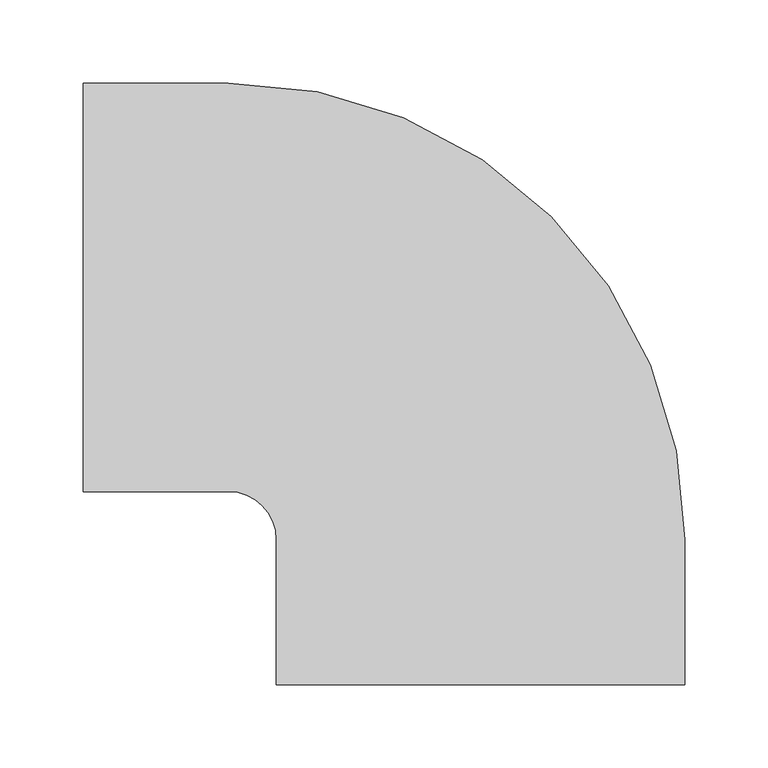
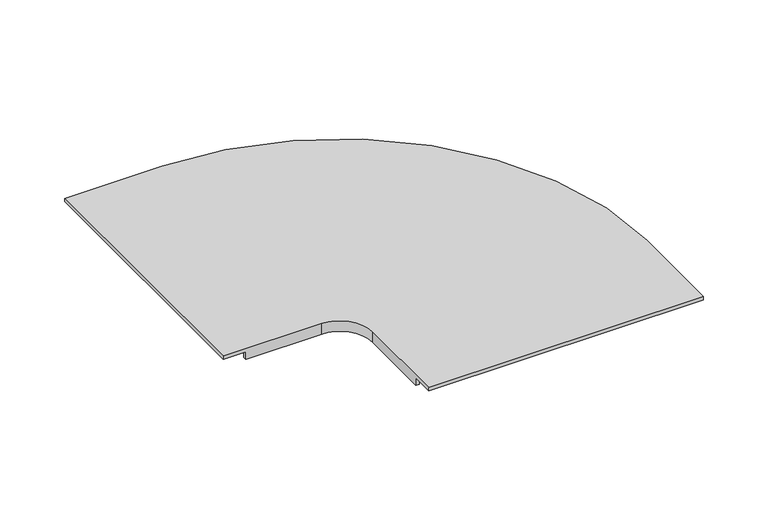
"""IFC4 building model written with IfcOpenShell, lengths in millimetres: cable carrier fitting geometry, CCT_Hyperline_FBTR-ELB90-CVR_Крышка на горизонтальный изгиб на 90°пластиковый : Крышка на горизонтальный изгиб на 90° пластиковый."""

import ifcopenshell
import ifcopenshell.guid

model = None  # the IFC model being written
_history = None  # IfcOwnerHistory: only IFC2X3 demands one
_inside = {}  # id of a spatial element -> (the spatial element, [elements in it])
_under = {}  # id of a project, library or spatial element -> (it, [spatial elements below it])
_declared = {}  # id of a project -> (the project, [libraries it declares])
_typed = {}  # id of a type object -> (the type object, [elements of that type])
_made_of = {}  # id of a material, layer set ... -> (it, [elements and type objects made of it])


def new_model(schema):
    """Start an empty IFC model of exactly this schema.

    Asked for "IFC4X3", IfcOpenShell would pick the latest addendum, in which some entities
    have other attributes; the version numbers below select the first issue.
    IFC2X3 requires an IfcOwnerHistory on every rooted entity: one is made here for all.
    """
    global model, _history
    if schema == "IFC4X3":
        model = ifcopenshell.file(schema_version=(4, 3, 0, 0))
    else:
        model = ifcopenshell.file(schema=schema)
    _inside.clear()
    _under.clear()
    _declared.clear()
    _typed.clear()
    _made_of.clear()
    _history = None
    if model.schema == "IFC2X3":
        org = make("IfcOrganization", Name="unknown")
        user = make(
            "IfcPersonAndOrganization",
            ThePerson=make("IfcPerson", FamilyName="unknown"),
            TheOrganization=org,
        )
        app = make(
            "IfcApplication",
            ApplicationDeveloper=org,
            Version="unknown",
            ApplicationFullName="unknown",
            ApplicationIdentifier="unknown",
        )
        _history = make(
            "IfcOwnerHistory",
            OwningUser=user,
            OwningApplication=app,
            ChangeAction="ADDED",
            CreationDate=0,
        )
    return model


def make(cls, **values):
    """One entity of the class cls with the attributes given. An attribute that is None is left unset."""
    return model.create_entity(
        cls, **{name: value for name, value in values.items() if value is not None}
    )


def rooted(cls, **values):
    """An entity with a GlobalId (a new one), such as an element, a storey or a relation."""
    return make(cls, GlobalId=ifcopenshell.guid.new(), OwnerHistory=_history, **values)


def si_unit(unit_type, name, prefix=None):
    """IfcSIUnit, for example si_unit("LENGTHUNIT", "METRE", prefix="MILLI")."""
    return make("IfcSIUnit", UnitType=unit_type, Prefix=prefix, Name=name)


def assignment(units):
    """IfcUnitAssignment: the units of a project."""
    return None if units is None else make("IfcUnitAssignment", Units=units)


def point(xyz):
    """IfcCartesianPoint."""
    return None if xyz is None else make("IfcCartesianPoint", Coordinates=xyz)


def direction(xyz):
    """IfcDirection."""
    return None if xyz is None else make("IfcDirection", DirectionRatios=xyz)


def frame(location, z_axis=None, x_axis=None):
    """IfcAxis2Placement3D, a coordinate frame: its origin and axes. An axis left out is left unset."""
    return make(
        "IfcAxis2Placement3D",
        Location=point(location),
        Axis=direction(z_axis),
        RefDirection=direction(x_axis),
    )


def origin():
    """The frame at (0, 0, 0) with its axes left unset."""
    return frame((0.0, 0.0, 0.0))


def place(relative_to, where):
    """IfcLocalPlacement: puts the frame where relative to a parent placement (None: the world)."""
    return make(
        "IfcLocalPlacement", PlacementRelTo=relative_to, RelativePlacement=where
    )


def context(
    kind, dimensions, precision=None, world=None, true_north=None, identifier=None
):
    """IfcGeometricRepresentationContext, for example the 3D "Model" context."""
    return make(
        "IfcGeometricRepresentationContext",
        ContextIdentifier=identifier,
        ContextType=kind,
        CoordinateSpaceDimension=dimensions,
        Precision=precision,
        WorldCoordinateSystem=world,
        TrueNorth=true_north,
    )


def project(units=None, contexts=None):
    """IfcProject with its units and contexts."""
    return rooted(
        "IfcProject",
        Name="project",
        RepresentationContexts=contexts,
        UnitsInContext=assignment(units),
    )


def spatial(cls, under=None, at=None, **own):
    """A site, building, storey or space (cls), placed at a placement, below another one or the project."""
    s = rooted(cls, ObjectPlacement=at, **own)
    if under is not None:
        _under.setdefault(under.id(), (under, []))[1].append(s)
    return s


def polyline(points):
    """IfcPolyline through the points."""
    return make("IfcPolyline", Points=[point(p) for p in points])


def circle_curve(where, radius):
    """IfcCircle in the frame where."""
    return make("IfcCircle", Position=where, Radius=radius)


def shape(context_of_items, identifier, shape_type, items):
    """IfcShapeRepresentation: the items that make up one representation, for example the "Body"."""
    return make(
        "IfcShapeRepresentation",
        ContextOfItems=context_of_items,
        RepresentationIdentifier=identifier,
        RepresentationType=shape_type,
        Items=items,
    )


def source(mapping_origin, context_of_items, identifier, shape_type, items):
    """IfcRepresentationMap: a shape defined once, which mapped items show again and again."""
    return make(
        "IfcRepresentationMap",
        MappingOrigin=mapping_origin,
        MappedRepresentation=shape(context_of_items, identifier, shape_type, items),
    )


def transform(
    local_origin,
    x_axis=None,
    y_axis=None,
    z_axis=None,
    scale=None,
    scale2=None,
    scale3=None,
    uniform=True,
):
    """IfcCartesianTransformationOperator3D, or its non-uniform kind. x_axis, y_axis, z_axis: its Axis1, 2, 3."""
    if uniform:
        return make(
            "IfcCartesianTransformationOperator3D",
            Axis1=direction(x_axis),
            Axis2=direction(y_axis),
            LocalOrigin=point(local_origin),
            Scale=scale,
            Axis3=direction(z_axis),
        )
    return make(
        "IfcCartesianTransformationOperator3DnonUniform",
        Axis1=direction(x_axis),
        Axis2=direction(y_axis),
        LocalOrigin=point(local_origin),
        Scale=scale,
        Axis3=direction(z_axis),
        Scale2=scale2,
        Scale3=scale3,
    )


def mapped(mapping_source, mapping_target):
    """IfcMappedItem: shows the shape of a source again, moved by a transform."""
    return make(
        "IfcMappedItem", MappingSource=mapping_source, MappingTarget=mapping_target
    )


def made_of(thing, what):
    """Note that an element or type object is made of a material, layer set ...; save() writes the relation."""
    if what is not None:
        _made_of.setdefault(what.id(), (what, []))[1].append(thing)
    return thing


def element(
    cls,
    number,
    at=None,
    inside=None,
    cuts=None,
    type_object=None,
    material=None,
    context=None,
    identifier="Body",
    shape_type=None,
    held_by="IfcProductDefinitionShape",
    body=None,
    shapes=None,
    **own,
):
    """One element of the class cls, such as IfcWall. Its Tag is "e" and its number.

    at: its placement. inside: the storey or other place that contains it. cuts: it is an
    opening in that element (IfcRelVoidsElement). A single representation is given by context,
    identifier, shape_type and body (its items); several are given by shapes. held_by: the class
    of the entity that holds the representations. save() writes the other relations.
    """
    e = rooted(cls, Tag="e%d" % number, ObjectPlacement=at, **own)
    if body is not None:
        shapes = [shape(context, identifier, shape_type, body)]
    if shapes is not None:
        e.Representation = make(held_by, Representations=shapes)
    if inside is not None:
        _inside.setdefault(inside.id(), (inside, []))[1].append(e)
    if cuts is not None:
        rooted(
            "IfcRelVoidsElement", RelatingBuildingElement=cuts, RelatedOpeningElement=e
        )
    if type_object is not None:
        _typed.setdefault(type_object.id(), (type_object, []))[1].append(e)
    return made_of(e, material)


def aggregate(whole, parts):
    """IfcRelAggregates: a whole, such as a stair, and the parts it consists of."""
    return rooted("IfcRelAggregates", RelatingObject=whole, RelatedObjects=parts)


def save(model, path):
    """Write the relations noted so far, then the file.

    IfcRelAggregates (storeys below a building ...), IfcRelContainedInSpatialStructure (elements
    in a storey), IfcRelDefinesByType, IfcRelAssociatesMaterial and IfcRelDeclares: one each for
    every whole, place, type object, material and project.
    """
    for whole, parts in _under.values():
        aggregate(whole, parts)
    for where, things in _inside.values():
        rooted(
            "IfcRelContainedInSpatialStructure",
            RelatedElements=things,
            RelatingStructure=where,
        )
    for kind, things in _typed.values():
        rooted("IfcRelDefinesByType", RelatedObjects=things, RelatingType=kind)
    for what, things in _made_of.values():
        rooted("IfcRelAssociatesMaterial", RelatedObjects=things, RelatingMaterial=what)
    for by, libraries in _declared.values():
        rooted("IfcRelDeclares", RelatingContext=by, RelatedDefinitions=libraries)
    model.write(path)


def plane_surface(at):
    """IfcPlane: the flat surface through the origin of the frame at, square to its z axis."""
    return make("IfcPlane", Position=at)


def cylinder_surface(at, radius):
    """IfcCylindricalSurface: all points at the distance radius from the z axis of the frame at."""
    return make("IfcCylindricalSurface", Position=at, Radius=radius)


def revolved_surface(curve, axis_point, axis_direction):
    """IfcSurfaceOfRevolution: the curve turned about the line through axis_point along axis_direction."""
    return make(
        "IfcSurfaceOfRevolution",
        SweptCurve=make("IfcArbitraryOpenProfileDef", ProfileType="CURVE", Curve=curve),
        AxisPosition=make("IfcAxis1Placement", Location=point(axis_point), Axis=direction(axis_direction)),
    )


def advanced_brep(points, edges, surfaces, faces):
    """IfcAdvancedBrep: a solid bounded by faces that lie on surfaces and meet in shared edges.

    An edge is (start, end): straight between two places in points (the first is 0);
    or (start, end, curve); or (start, end, curve, False) where it runs against its curve.
    A face is (place in surfaces, loops), or (place, loops, False) where it looks against
    its surface's normal. A loop lists edges by number (the first is 1), with a minus sign
    where the edge is run from its end to its start. The first loop is the outer one.
    """
    corners = [point(p) for p in points]
    vertices = [make("IfcVertexPoint", VertexGeometry=c) for c in corners]
    made = []
    for start, end, *more in edges:
        made.append(
            make(
                "IfcEdgeCurve",
                EdgeStart=vertices[start],
                EdgeEnd=vertices[end],
                EdgeGeometry=more[0] if more else make("IfcPolyline", Points=[corners[start], corners[end]]),
                SameSense=more[1] if len(more) > 1 else True,
            )
        )
    hull = []
    for where, loops, *sense in faces:
        bounds = []
        for j, loop in enumerate(loops):
            ring = [make("IfcOrientedEdge", EdgeElement=made[abs(k) - 1], Orientation=k > 0) for k in loop]
            bounds.append(
                make(
                    "IfcFaceOuterBound" if j == 0 else "IfcFaceBound",
                    Bound=make("IfcEdgeLoop", EdgeList=ring),
                    Orientation=True,
                )
            )
        hull.append(make("IfcAdvancedFace", Bounds=bounds, FaceSurface=surfaces[where], SameSense=sense[0] if sense else True))
    return make("IfcAdvancedBrep", Outer=make("IfcClosedShell", CfsFaces=hull))


def cable_carrier_fitting_022d71c2(model_context):
    return source(origin(), model_context, "Body", "AdvancedBrep", [
        advanced_brep(
        [(-149.2249258, 40.0558071, 53.0), (-149.2249258, 286.0558071, 53.0), (-149.2249258, 286.0558071, 50.0), (-149.2249258, 40.0558071, 50.0), (-61.7249258, 40.0558071, 53.0), (-32.7249258, 11.0558071, 53.0), (-32.7249258, -76.4441929, 53.0), (213.2750742, -76.4441929, 53.0), (213.2750742, 11.0558071, 53.0), (-61.7249258, 286.0558071, 53.0), (-61.7249258, 283.0558071, 50.0), (210.2750742, 11.0558071, 50.0), (210.2750742, -56.4441929, 50.0), (213.2750742, -56.4441929, 50.0), (213.2750742, -76.4441929, 50.0), (-32.7249258, -76.4441929, 50.0), (-32.7249258, -56.4441929, 50.0), (-29.7249258, -56.4441929, 50.0), (-29.7249258, 11.0558071, 50.0), (-61.7249258, 43.0558071, 50.0), (-129.2249258, 43.0558071, 50.0), (-129.2249258, 40.0558071, 50.0), (-129.2249258, 286.0558071, 50.0), (-129.2249258, 283.0558071, 50.0), (-61.7249258, 43.0558071, 43.0), (-129.2249258, 43.0558071, 43.0), (-29.7249258, 11.0558071, 43.0), (-29.7249258, -56.4441929, 43.0), (-32.7249258, -56.4441929, 43.0), (-32.7249258, 11.0558071, 43.0), (-61.7249258, 40.0558071, 43.0), (-129.2249258, 40.0558071, 43.0), (-61.7249258, 286.0558071, 43.0), (-129.2249258, 286.0558071, 43.0), (213.2750742, 11.0558071, 43.0), (213.2750742, -56.4441929, 43.0), (210.2750742, -56.4441929, 43.0), (210.2750742, 11.0558071, 43.0), (-61.7249258, 283.0558071, 43.0), (-129.2249258, 283.0558071, 43.0)],
        [
            (0, 1),
            (1, 2),
            (2, 3),
            (3, 0),
            (0, 4),
            (4, 5, circle_curve(frame((-61.7249258, 11.0558071, 53.0), z_axis=(0.0, 0.0, -1.0), x_axis=(0.0, 1.0, 0.0)), 29.0)),
            (5, 6),
            (6, 7),
            (7, 8),
            (8, 9, circle_curve(frame((-61.7249258, 11.0558071, 53.0), z_axis=(0.0, 0.0, 1.0), x_axis=(0.0, 1.0, 0.0)), 275.0)),
            (9, 1),
            (10, 11, circle_curve(frame((-61.7249258, 11.0558071, 50.0), z_axis=(0.0, 0.0, -1.0), x_axis=(0.0, 1.0, 0.0)), 272.0)),
            (11, 12),
            (12, 13),
            (13, 14),
            (14, 15),
            (15, 16),
            (16, 17),
            (17, 18),
            (18, 19, circle_curve(frame((-61.7249258, 11.0558071, 50.0), z_axis=(0.0, 0.0, 1.0), x_axis=(0.0, 1.0, 0.0)), 32.0)),
            (19, 20),
            (20, 21),
            (21, 3),
            (2, 22),
            (22, 23),
            (23, 10),
            (19, 24),
            (24, 25),
            (25, 20),
            (24, 26, circle_curve(frame((-61.7249258, 11.0558071, 43.0), z_axis=(0.0, 0.0, -1.0), x_axis=(0.0, 1.0, 0.0)), 32.0)),
            (26, 27),
            (27, 28),
            (28, 29),
            (29, 30, circle_curve(frame((-61.7249258, 11.0558071, 43.0), z_axis=(0.0, 0.0, 1.0), x_axis=(0.0, 1.0, 0.0)), 29.0)),
            (30, 31),
            (31, 25),
            (21, 31),
            (30, 4),
            (18, 26),
            (29, 5),
            (6, 15),
            (14, 7),
            (17, 27),
            (28, 16),
            (9, 32),
            (32, 33),
            (33, 22),
            (32, 34, circle_curve(frame((-61.7249258, 11.0558071, 43.0), z_axis=(0.0, 0.0, -1.0), x_axis=(0.0, 1.0, 0.0)), 275.0)),
            (34, 35),
            (35, 36),
            (36, 37),
            (37, 38, circle_curve(frame((-61.7249258, 11.0558071, 43.0), z_axis=(0.0, 0.0, 1.0), x_axis=(0.0, 1.0, 0.0)), 272.0)),
            (38, 39),
            (39, 33),
            (38, 10),
            (23, 39),
            (8, 34),
            (37, 11),
            (13, 35),
            (36, 12),
        ],
        [
            plane_surface(frame((-149.2249258, 43.0558071, 25.0), z_axis=(-1.0, 0.0, 0.0), x_axis=(0.0, 0.0, 1.0))),
            plane_surface(frame((-149.2249258, 40.0558071, 53.0), z_axis=(0.0, 0.0, 1.0), x_axis=(1.0, 0.0, 0.0))),
            plane_surface(frame((-149.2249258, 283.0558071, 50.0), z_axis=(0.0, 0.0, -1.0), x_axis=(1.0, 0.0, 0.0))),
            plane_surface(frame((-149.2249258, 43.0558071, 50.0), z_axis=(0.0, 1.0, 0.0), x_axis=(1.0, 0.0, 0.0))),
            plane_surface(frame((-149.2249258, 43.0558071, 43.0), z_axis=(0.0, 0.0, -1.0), x_axis=(1.0, 0.0, 0.0))),
            plane_surface(frame((-149.2249258, 40.0558071, 43.0), z_axis=(0.0, -1.0, 0.0), x_axis=(1.0, 0.0, 0.0))),
            cylinder_surface(frame((-61.7249258, 11.0558071, 25.0), z_axis=(0.0, 0.0, -1.0), x_axis=(0.0, 1.0, 0.0)), 32.0),
            revolved_surface(polyline([(-61.7249258, 40.0558071, 43.0), (-61.7249258, 40.0558071, 53.0)]), (-61.7249258, 11.0558071, 25.0), (0.0, 0.0, -1.0)),
            plane_surface(frame((-29.7249258, -76.4441929, 25.0), z_axis=(0.0, -1.0, 0.0), x_axis=(0.0, 0.0, 1.0))),
            plane_surface(frame((-29.7249258, 11.0558071, 50.0), z_axis=(1.0, 0.0, 0.0), x_axis=(0.0, -1.0, 0.0))),
            plane_surface(frame((-32.7249258, 11.0558071, 43.0), z_axis=(-1.0, 0.0, 0.0), x_axis=(0.0, -1.0, 0.0))),
            plane_surface(frame((-149.2249258, 286.0558071, 53.0), z_axis=(0.0, 1.0, 0.0), x_axis=(1.0, 0.0, 0.0))),
            plane_surface(frame((-149.2249258, 286.0558071, 43.0), z_axis=(0.0, 0.0, -1.0), x_axis=(1.0, 0.0, 0.0))),
            plane_surface(frame((-149.2249258, 283.0558071, 43.0), z_axis=(0.0, -1.0, 0.0), x_axis=(1.0, 0.0, 0.0))),
            cylinder_surface(frame((-61.7249258, 11.0558071, 25.0), z_axis=(0.0, 0.0, -1.0), x_axis=(0.0, 1.0, 0.0)), 275.0),
            revolved_surface(polyline([(-61.7249258, 283.0558071, 43.0), (-61.7249258, 283.0558071, 50.0)]), (-61.7249258, 11.0558071, 25.0), (0.0, 0.0, -1.0)),
            plane_surface(frame((213.2750742, 11.0558071, 53.0), z_axis=(1.0, 0.0, 0.0), x_axis=(0.0, -1.0, 0.0))),
            plane_surface(frame((210.2750742, 11.0558071, 43.0), z_axis=(-1.0, 0.0, 0.0), x_axis=(0.0, -1.0, 0.0))),
            plane_surface(frame((-129.2249258, -225.5092401, 43.0), z_axis=(-1.0, 0.0, 0.0), x_axis=(0.0, 1.0, 0.0))),
            plane_surface(frame((-218.796213, -56.4441929, 50.0), z_axis=(0.0, -1.0, 0.0), x_axis=(1.0, 0.0, 0.0))),
        ],
        [
            (0, [[1, 2, 3, 4]]),
            (1, [[-1, 5, 6, 7, 8, 9, 10, 11]]),
            (2, [[12, 13, 14, 15, 16, 17, 18, 19, 20, 21, 22, 23, -3, 24, 25, 26]]),
            (3, [[27, 28, 29, -21]]),
            (4, [[30, 31, 32, 33, 34, 35, 36, -28]]),
            (5, [[-5, -4, -23, 37, -35, 38]]),
            (6, [[-20, 39, -30, -27]]),
            (7, [[-6, -38, -34, 40]]),
            (8, [[-8, 41, -16, 42]]),
            (9, [[-39, -19, 43, -31]]),
            (10, [[-7, -40, -33, 44, -17, -41]]),
            (11, [[-11, 45, 46, 47, -24, -2]]),
            (12, [[48, 49, 50, 51, 52, 53, 54, -46]]),
            (13, [[55, -26, 56, -53]]),
            (14, [[-10, 57, -48, -45]]),
            (15, [[-12, -55, -52, 58]]),
            (16, [[-9, -42, -15, 59, -49, -57]]),
            (17, [[-58, -51, 60, -13]]),
            (18, [[-22, -29, -36, -37]]),
            (18, [[-25, -47, -54, -56]]),
            (19, [[-14, -60, -50, -59]]),
            (19, [[-18, -44, -32, -43]]),
        ],
    ),
    ])


if __name__ == "__main__":
    model = new_model("IFC4")
    model_context = context("Model", 3, world=origin())
    ifc_project = project(units=[si_unit("LENGTHUNIT", "METRE", prefix="MILLI")], contexts=[model_context])
    site = spatial("IfcSite", under=ifc_project)
    building = spatial("IfcBuilding", under=site)
    placement = place(None, origin())
    cable_carrier_fitting_shape = cable_carrier_fitting_022d71c2(model_context)
    element("IfcCableCarrierFitting", 1, ObjectType="CCT_Hyperline_FBTR-ELB90-CVR_Крышка на горизонтальный изгиб на 90°пластиковый : Крышка на горизонтальный изгиб на 90° пластиковый", at=placement, inside=building, context=model_context, shape_type="MappedRepresentation", body=[
        mapped(cable_carrier_fitting_shape, transform((0.0, 0.0, 0.0), x_axis=(1.0, 0.0, 0.0), y_axis=(0.0, 1.0, 0.0), z_axis=(0.0, 0.0, 1.0))),
    ])
    save(model, "model.ifc")
